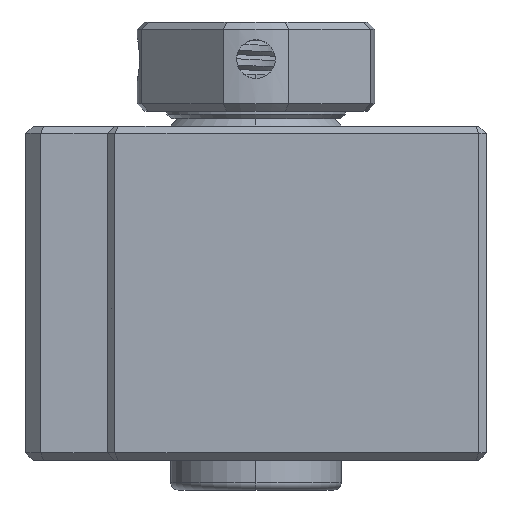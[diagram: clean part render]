
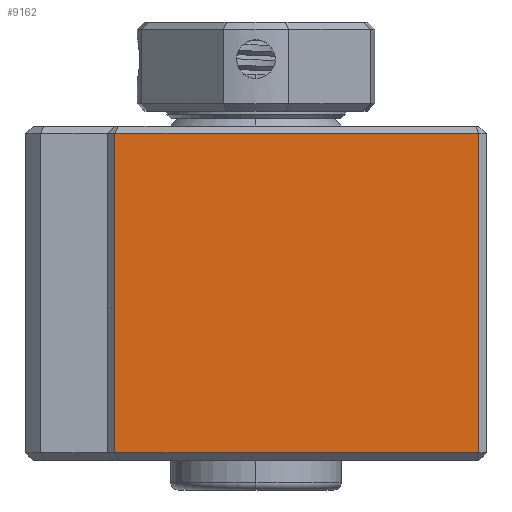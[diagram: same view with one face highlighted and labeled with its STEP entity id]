
A CAD part, left-side view. The second image highlights one B-rep face of the part: STEP entity #9162.
In plain terms, the highlighted planar face has unit normal (-1, 0, 0).
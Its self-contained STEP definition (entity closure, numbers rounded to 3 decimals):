
#9162 = ADVANCED_FACE ( 'NONE', ( #18102 ), #18101, .F. ) ;
#9165 = EDGE_LOOP ( 'NONE', ( #9167, #9334, #9343, #9352 ) ) ;
#9167 = ORIENTED_EDGE ( 'NONE', *, *, #9169, .T. ) ;
#9169 = EDGE_CURVE ( 'NONE', #9171, #9173, #18099, .T. ) ;
#9171 = VERTEX_POINT ( 'NONE', #18092 ) ;
#9173 = VERTEX_POINT ( 'NONE', #18091 ) ;
#9334 = ORIENTED_EDGE ( 'NONE', *, *, #9337, .T. ) ;
#9337 = EDGE_CURVE ( 'NONE', #9173, #9340, #18181, .T. ) ;
#9340 = VERTEX_POINT ( 'NONE', #18177 ) ;
#9343 = ORIENTED_EDGE ( 'NONE', *, *, #9346, .T. ) ;
#9346 = EDGE_CURVE ( 'NONE', #9340, #9349, #18175, .T. ) ;
#9349 = VERTEX_POINT ( 'NONE', #18233 ) ;
#9352 = ORIENTED_EDGE ( 'NONE', *, *, #9354, .T. ) ;
#9354 = EDGE_CURVE ( 'NONE', #9349, #9171, #18232, .T. ) ;
#18091 = CARTESIAN_POINT ( 'NONE',  ( 0., 25., 0.5 ) ) ;
#18092 = CARTESIAN_POINT ( 'NONE',  ( 0., 25., 22. ) ) ;
#18093 = DIRECTION ( 'NONE',  ( 0., 0., -1. ) ) ;
#18094 = VECTOR ( 'NONE', #18093, 1000. ) ;
#18095 = CARTESIAN_POINT ( 'NONE',  ( 0., 25., 22.5 ) ) ;
#18096 = DIRECTION ( 'NONE',  ( 0., 0., -1. ) ) ;
#18097 = DIRECTION ( 'NONE',  ( 1., 0., 0. ) ) ;
#18098 = AXIS2_PLACEMENT_3D ( 'NONE', #18100, #18097, #18096 ) ;
#18099 = LINE ( 'NONE', #18095, #18094 ) ;
#18100 = CARTESIAN_POINT ( 'NONE',  ( 0., 0., 22.5 ) ) ;
#18101 = PLANE ( 'NONE',  #18098 ) ;
#18102 = FACE_OUTER_BOUND ( 'NONE', #9165, .T. ) ;
#18172 = DIRECTION ( 'NONE',  ( 0., 0., 1. ) ) ;
#18173 = VECTOR ( 'NONE', #18172, 1000. ) ;
#18174 = CARTESIAN_POINT ( 'NONE',  ( 0., 0.5, 22.5 ) ) ;
#18175 = LINE ( 'NONE', #18174, #18173 ) ;
#18177 = CARTESIAN_POINT ( 'NONE',  ( 0., 0.5, 0.5 ) ) ;
#18178 = DIRECTION ( 'NONE',  ( 0., -1., 0. ) ) ;
#18179 = VECTOR ( 'NONE', #18178, 1000. ) ;
#18180 = CARTESIAN_POINT ( 'NONE',  ( 0., 0.5, 0.5 ) ) ;
#18181 = LINE ( 'NONE', #18180, #18179 ) ;
#18229 = DIRECTION ( 'NONE',  ( 0., 1., 0. ) ) ;
#18230 = VECTOR ( 'NONE', #18229, 1000. ) ;
#18231 = CARTESIAN_POINT ( 'NONE',  ( 0., 0., 22. ) ) ;
#18232 = LINE ( 'NONE', #18231, #18230 ) ;
#18233 = CARTESIAN_POINT ( 'NONE',  ( 0., 0.5, 22. ) ) ;
